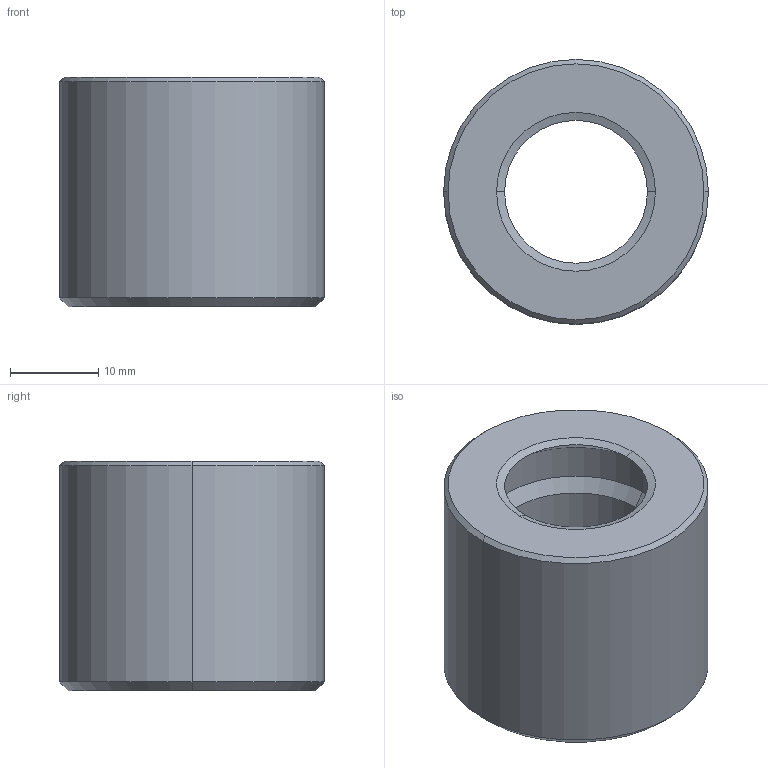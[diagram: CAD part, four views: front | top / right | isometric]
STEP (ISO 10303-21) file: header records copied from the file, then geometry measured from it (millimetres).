
FILE_DESCRIPTION((''),'2;1');
FILE_NAME('2103-120','2012-05-29T',('moal'),(''),'PRO/ENGINEER BY PARAMETRIC TECHNOLOGY CORPORATION, 2005110','PRO/ENGINEER BY PARAMETRIC TECHNOLOGY CORPORATION, 2005110','');
FILE_SCHEMA(('CONFIG_CONTROL_DESIGN'));
Length unit declared in the file: millimetre
Products named in the file (1): 2103-120
Bounding box: 30 x 30 x 26 mm (x, y, z)
Volume: 10544.5 mm3; surface area: 4919.8 mm2
Topology: 1 solids, 1 shells, 20 faces, 40 edges, 22 vertices
Faces by surface type: cone 12, cylinder 6, plane 2
Entity records: 556 total; most frequent: DIRECTION 102, CARTESIAN_POINT 82, ORIENTED_EDGE 80, AXIS2_PLACEMENT_3D 42, EDGE_CURVE 40, VERTEX_POINT 22, EDGE_LOOP 22, CIRCLE 22
